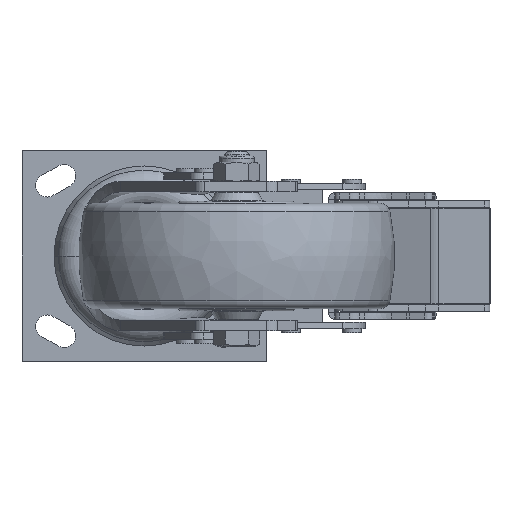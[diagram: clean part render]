
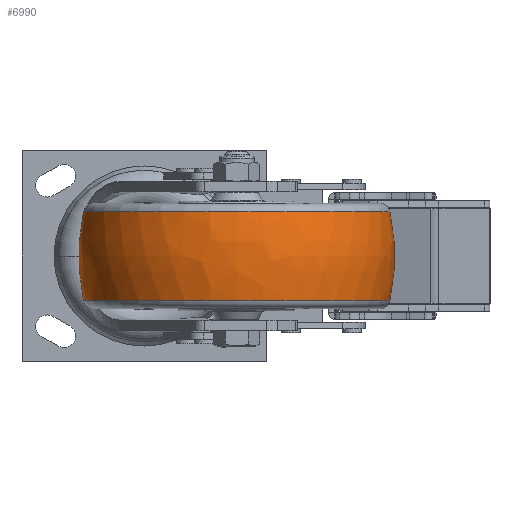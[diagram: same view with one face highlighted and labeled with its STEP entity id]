
A CAD part, front view. The second image highlights one B-rep face of the part: STEP entity #6990.
In plain terms, the highlighted free-form (B-spline) face has degree [3, 3] with [7, 4] control points.
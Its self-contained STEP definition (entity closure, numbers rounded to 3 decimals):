
#6126=CARTESIAN_POINT('',(0.,-25.,0.));
#6127=DIRECTION('',(0.,0.,1.));
#6128=DIRECTION('',(0.211,0.978,0.));
#6129=AXIS2_PLACEMENT_3D('',#6126,#6127,#6128);
#6131=CARTESIAN_POINT('',(0.,25.,0.));
#6132=DIRECTION('',(0.,0.,-1.));
#6133=DIRECTION('',(0.211,-0.978,0.));
#6134=AXIS2_PLACEMENT_3D('',#6131,#6132,#6133);
#6136=CARTESIAN_POINT('',(21.053,0.,0.));
#6137=DIRECTION('',(-1.,0.,0.));
#6138=DIRECTION('',(0.,1.,0.));
#6139=AXIS2_PLACEMENT_3D('',#6136,#6137,#6138);
#6161=CARTESIAN_POINT('',(-21.053,0.,0.));
#6162=DIRECTION('',(-1.,0.,0.));
#6163=DIRECTION('',(0.,1.,0.));
#6164=AXIS2_PLACEMENT_3D('',#6161,#6162,#6163);
#6455=CARTESIAN_POINT('',(21.053,72.759,0.));
#6457=VERTEX_POINT('',#6455);
#6458=CARTESIAN_POINT('',(-21.053,72.759,0.));
#6459=VERTEX_POINT('',#6458);
#6523=CARTESIAN_POINT('',(21.053,-72.759,
0.));
#6525=VERTEX_POINT('',#6523);
#6526=CARTESIAN_POINT('',(-21.053,-72.759,
0.));
#6527=VERTEX_POINT('',#6526);
#6952=CARTESIAN_POINT('',(-21.881,-72.433,
4.557));
#6953=CARTESIAN_POINT('',(-7.414,-75.671,
4.761));
#6954=CARTESIAN_POINT('',(7.414,-75.671,4.761));
#6955=CARTESIAN_POINT('',(21.881,-72.433,4.557));
#6956=CARTESIAN_POINT('',(-21.881,-75.238,
-40.018));
#6957=CARTESIAN_POINT('',(-7.414,-78.601,
-41.807));
#6958=CARTESIAN_POINT('',(7.414,-78.601,
-41.807));
#6959=CARTESIAN_POINT('',(21.881,-75.238,
-40.018));
#6960=CARTESIAN_POINT('',(-21.881,-44.664,
-72.577));
#6961=CARTESIAN_POINT('',(-7.414,-46.66,
-75.821));
#6962=CARTESIAN_POINT('',(7.414,-46.66,
-75.821));
#6963=CARTESIAN_POINT('',(21.881,-44.664,
-72.577));
#6964=CARTESIAN_POINT('',(-21.881,0.,
-72.577));
#6965=CARTESIAN_POINT('',(-7.414,0.,
-75.821));
#6966=CARTESIAN_POINT('',(7.414,0.,
-75.821));
#6967=CARTESIAN_POINT('',(21.881,0.,
-72.577));
#6968=CARTESIAN_POINT('',(-21.881,44.664,
-72.577));
#6969=CARTESIAN_POINT('',(-7.414,46.66,
-75.821));
#6970=CARTESIAN_POINT('',(7.414,46.66,-75.821));
#6971=CARTESIAN_POINT('',(21.881,44.664,-72.577));
#6972=CARTESIAN_POINT('',(-21.881,75.238,
-40.018));
#6973=CARTESIAN_POINT('',(-7.414,78.601,
-41.807));
#6974=CARTESIAN_POINT('',(7.414,78.601,-41.807));
#6975=CARTESIAN_POINT('',(21.881,75.238,-40.018));
#6976=CARTESIAN_POINT('',(-21.881,72.433,4.557));
#6977=CARTESIAN_POINT('',(-7.414,75.671,4.761));
#6978=CARTESIAN_POINT('',(7.414,75.671,4.761));
#6979=CARTESIAN_POINT('',(21.881,72.433,4.557));
#6980=(BOUNDED_SURFACE()B_SPLINE_SURFACE(3,3,((#6952,#6953,#6954,#6955),(#6956,
#6957,#6958,#6959),(#6960,#6961,#6962,#6963),(#6964,#6965,#6966,#6967),(#6968,
#6969,#6970,#6971),(#6972,#6973,#6974,#6975),(#6976,#6977,#6978,#6979)),
.UNSPECIFIED.,.F.,.F.,.F.)B_SPLINE_SURFACE_WITH_KNOTS((4,3,4),(4,4),(0.,1.,
2.),(0.,1.),.UNSPECIFIED.)GEOMETRIC_REPRESENTATION_ITEM()RATIONAL_B_SPLINE_SURFACE(((1.202,1.182,1.182,1.202),(
0.949,0.934,0.934,0.949),(
0.949,0.934,0.934,0.949),(
1.202,1.182,1.182,1.202),(
0.949,0.934,0.934,0.949),(
0.949,0.934,0.934,0.949),(
1.202,1.182,1.182,1.202)))REPRESENTATION_ITEM('')SURFACE());
#6982=ORIENTED_EDGE('',*,*,#6981,.T.);
#6984=ORIENTED_EDGE('',*,*,#6983,.T.);
#6986=ORIENTED_EDGE('',*,*,#6985,.F.);
#6987=ORIENTED_EDGE('',*,*,#6945,.F.);
#6988=EDGE_LOOP('',(#6982,#6984,#6986,#6987));
#6989=FACE_OUTER_BOUND('',#6988,.F.);
#6130=CIRCLE('',#6129,100.);
#6135=CIRCLE('',#6134,100.);
#6140=CIRCLE('',#6139,72.759);
#6165=CIRCLE('',#6164,72.759);
#6945=EDGE_CURVE('',#6457,#6525,#6140,.T.);
#6981=EDGE_CURVE('',#6457,#6459,#6130,.T.);
#6983=EDGE_CURVE('',#6459,#6527,#6165,.T.);
#6985=EDGE_CURVE('',#6525,#6527,#6135,.T.);
#6990=ADVANCED_FACE('',(#6989),#6980,.T.);
